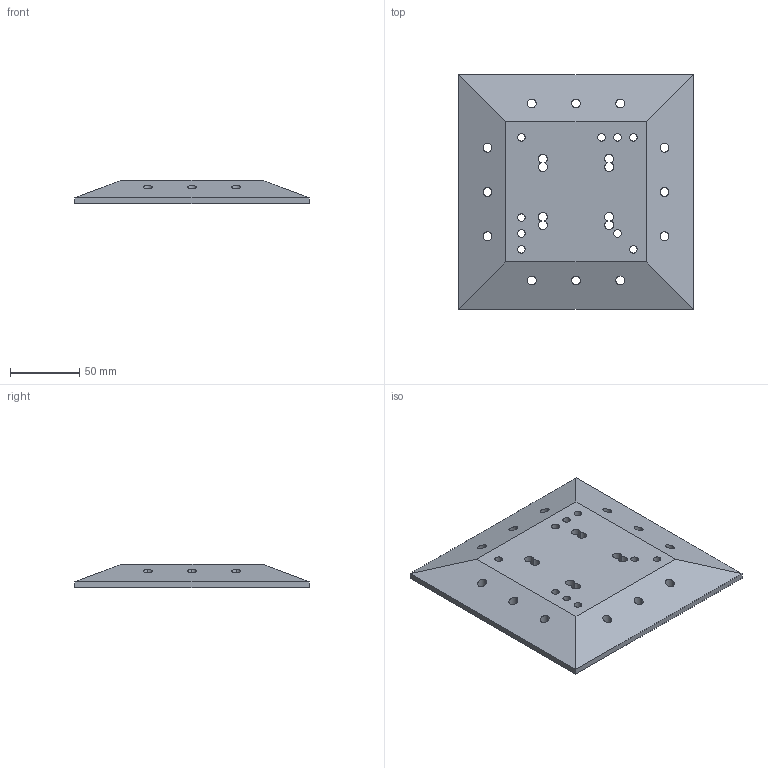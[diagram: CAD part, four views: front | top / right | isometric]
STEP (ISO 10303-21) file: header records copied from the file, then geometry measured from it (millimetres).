
FILE_DESCRIPTION( ( '' ), '1' );
FILE_NAME( 'C:/Users/dhek/Desktop/New folder/C_6/Legadrive/9243049.stp', '2018-02-20T11:52:53', ( '' ), ( '' ), ' ', ' ', ' ' );
FILE_SCHEMA( ( 'CONFIG_CONTROL_DESIGN' ) );
Length unit declared in the file: millimetre
Products named in the file (1): 1
Bounding box: 169.84 x 169.84 x 17 mm (x, y, z)
Volume: 348467.8 mm3; surface area: 68034 mm2
Topology: 1 solids, 1 shells, 68 faces, 200 edges, 134 vertices
Faces by surface type: cylinder 58, plane 10
Entity records: 2486 total; most frequent: DIRECTION 460, CARTESIAN_POINT 403, ORIENTED_EDGE 400, EDGE_CURVE 200, AXIS2_PLACEMENT_3D 191, VERTEX_POINT 134, EDGE_LOOP 118, CIRCLE 92
